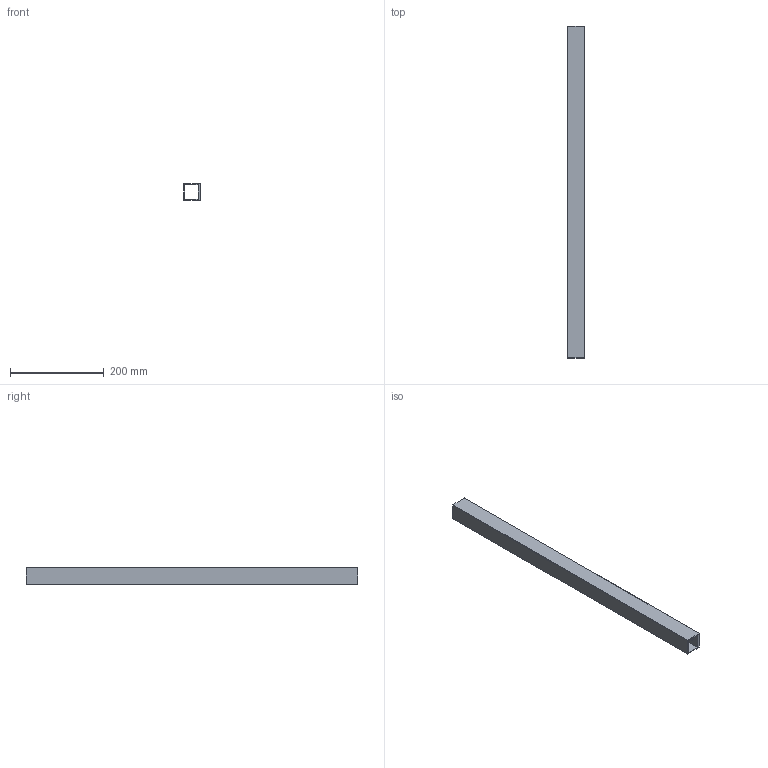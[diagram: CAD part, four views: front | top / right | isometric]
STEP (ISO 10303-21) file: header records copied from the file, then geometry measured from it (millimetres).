
FILE_DESCRIPTION(/* description */ (''),/* implementation_level */ '2;1');
FILE_NAME(/* name */ 'GL0305010101-A四方管(TOP).stp',/* time_stamp */ '2026-09-24T14:07:40+08:00',/* author */ (''),/* organization */ (''),/* preprocessor_version */ 'ST-DEVELOPER v16.7',/* originating_system */ 'SIEMENS PLM Software NX 12.0',/* authorisation */ '');
FILE_SCHEMA (('AUTOMOTIVE_DESIGN { 1 0 10303 214 3 1 1 1 }'));
Length unit declared in the file: millimetre
Products named in the file (1): F2D091BFuu6y
Bounding box: 36 x 709.5 x 36 mm (x, y, z)
Volume: 248238.6 mm3; surface area: 189339.3 mm2
Topology: 1 solids, 1 shells, 53 faces, 141 edges, 102 vertices
Faces by surface type: cylinder 30, plane 23
Full cylindrical faces by diameter (mm): 11.55 x12, 20.05 x12
Entity records: 1456 total; most frequent: DIRECTION 258, CARTESIAN_POINT 231, ORIENTED_EDGE 186, EDGE_LOOP 115, AXIS2_PLACEMENT_3D 113, FACE_BOUND 102, EDGE_CURVE 93, VERTEX_POINT 78
